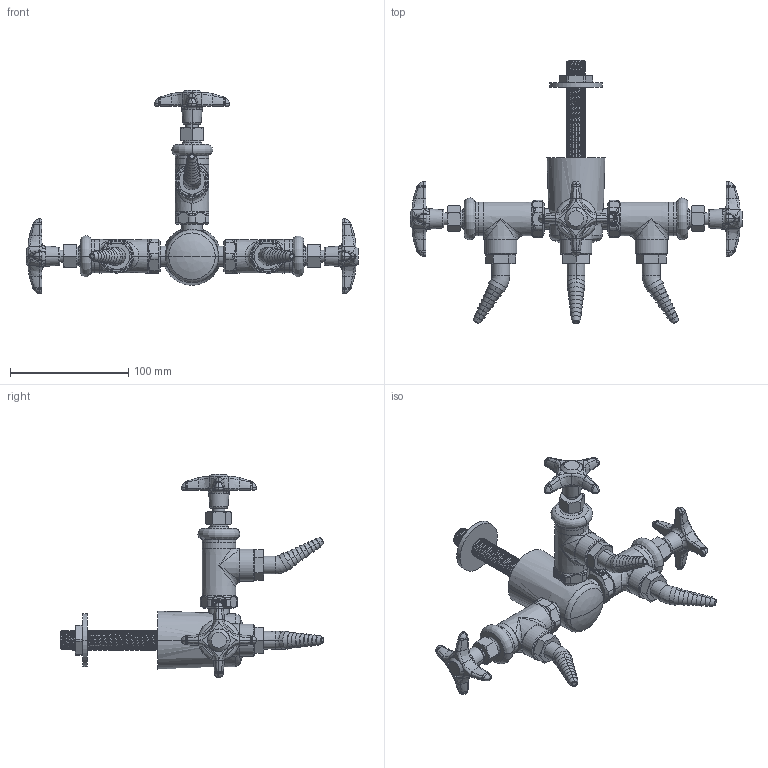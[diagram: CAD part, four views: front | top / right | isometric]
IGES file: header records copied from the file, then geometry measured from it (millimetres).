
Start section:  PTC IGES file: LGN3-A22A-30.igs
Global section: file name: LGN3-A22A-30.igs; native system: Creo Parametric by PTC Inc.; preprocessor: 2014500; author: usch_engrender; organization: Unknown; date: 20160104.100931; units: inch
Bounding box: 280.37 x 222.79 x 171.89 mm (x, y, z)
Volume: 328654.9 mm3; surface area: 105941.1 mm2
Topology: 1 solids, 12 shells, 1948 faces, 4529 edges, 2673 vertices
Faces by surface type: bspline 1064, revolution 884
